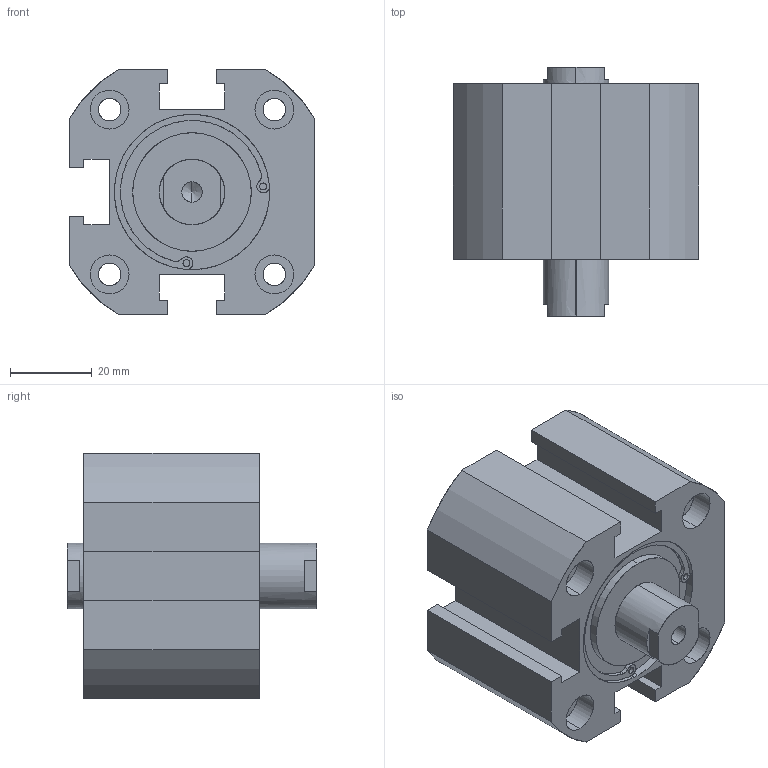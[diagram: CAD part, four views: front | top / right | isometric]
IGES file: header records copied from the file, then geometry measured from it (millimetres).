
Start section: SolidWorks IGES file using analytic representation for surfaces
Global section: file name: C:\Users\Toshiba\Desktop\XG#7-40-10.IGS; native system: SolidWorks 2014; preprocessor: SolidWorks 2014; author: Toshiba; date: 160524.095857; units: millimetre
Bounding box: 60 x 61 x 60 mm (x, y, z)
Surface area: 24701 mm2 (no closed solid volume)
Topology: 0 solids, 0 shells, 149 faces, 2692 edges, 2684 vertices
Faces by surface type: revolution 89, bspline 60
